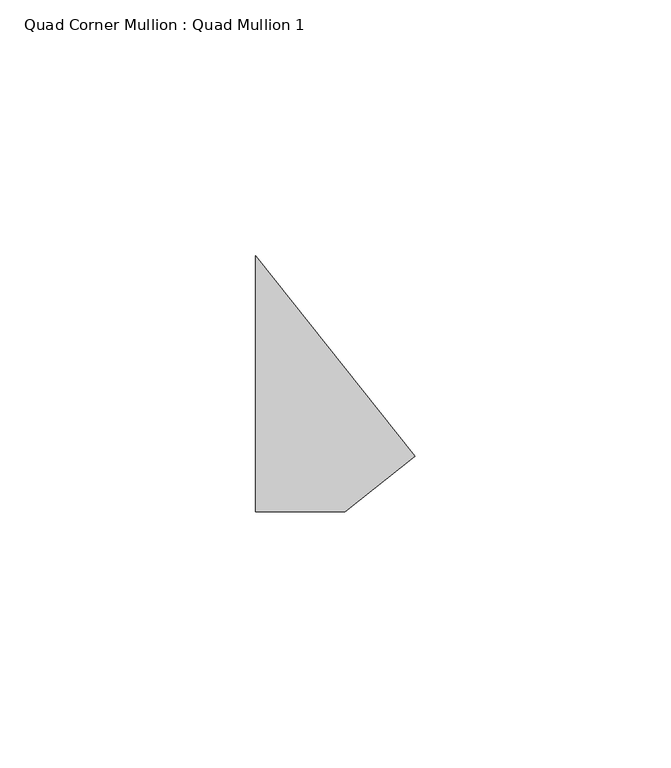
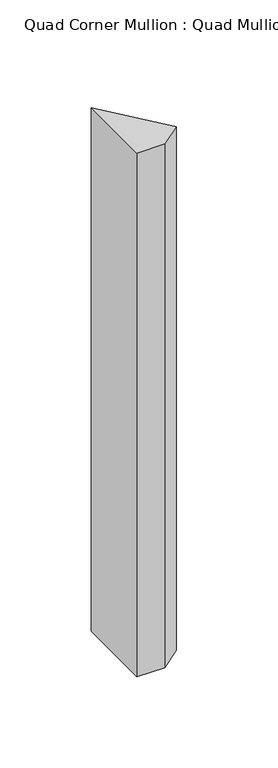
"""IFC4 building model written with IfcOpenShell, lengths in millimetres: member geometry, Quad Corner Mullion : Quad Mullion 1."""

from ifc_helpers import new_model, si_unit, frame, origin, place, context, project, spatial, polyline, outline, extrude, source, transform, mapped, element, save


def quad_corner_mullion_quad_mullion_1_09ce329c(model_context):
    return source(origin(), model_context, "Body", "SweptSolid", [
        extrude(outline(polyline([(22.4169637, -14.1035695), (8.7424787, -25.0), (-8.7424787, -25.0), (-8.7424787, 25.0), (22.4169637, -14.1035695)])), frame((0.0, 0.0, -350.0), z_axis=(0.0, 0.0, 1.0), x_axis=(1.0, 0.0, 0.0)), (0.0, 0.0, 1.0), 350.0),
    ])


if __name__ == "__main__":
    model = new_model("IFC4")
    model_context = context("Model", 3, world=origin())
    ifc_project = project(units=[si_unit("LENGTHUNIT", "METRE", prefix="MILLI")], contexts=[model_context])
    site = spatial("IfcSite", under=ifc_project)
    building = spatial("IfcBuilding", under=site)
    placement = place(None, origin())
    quad_corner_mullion_quad_mullion_1_shape = quad_corner_mullion_quad_mullion_1_09ce329c(model_context)
    element("IfcMember", 1, ObjectType="Quad Corner Mullion : Quad Mullion 1", at=placement, inside=building, context=model_context, shape_type="MappedRepresentation", body=[
        mapped(quad_corner_mullion_quad_mullion_1_shape, transform((0.0, 0.0, 0.0), x_axis=(1.0, 0.0, 0.0), y_axis=(0.0, 1.0, 0.0), z_axis=(0.0, 0.0, 1.0))),
    ])
    save(model, "model.ifc")
